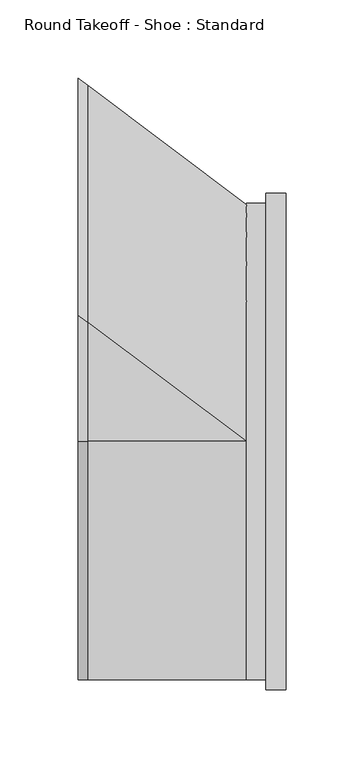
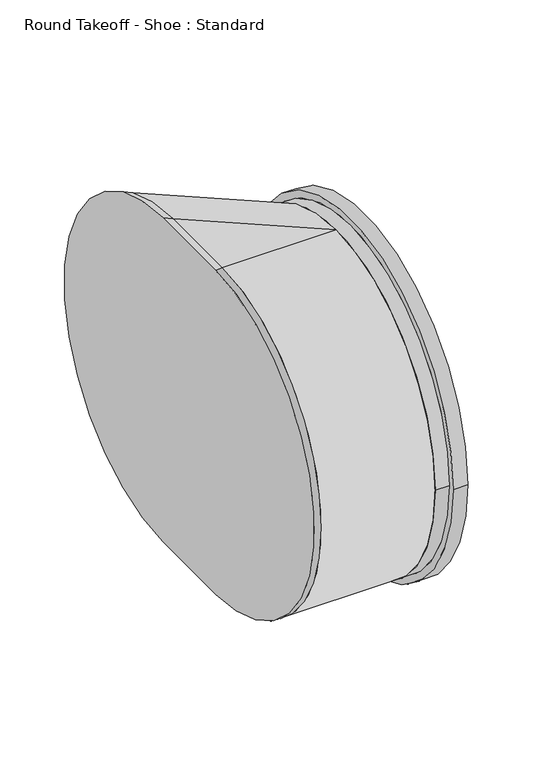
"""IFC4 building model written with IfcOpenShell, lengths in millimetres: duct fitting geometry, Round Takeoff - Shoe : Standard."""

import ifcopenshell
import ifcopenshell.guid

model = None  # the IFC model being written
_history = None  # IfcOwnerHistory: only IFC2X3 demands one
_inside = {}  # id of a spatial element -> (the spatial element, [elements in it])
_under = {}  # id of a project, library or spatial element -> (it, [spatial elements below it])
_declared = {}  # id of a project -> (the project, [libraries it declares])
_typed = {}  # id of a type object -> (the type object, [elements of that type])
_made_of = {}  # id of a material, layer set ... -> (it, [elements and type objects made of it])


def new_model(schema):
    """Start an empty IFC model of exactly this schema.

    Asked for "IFC4X3", IfcOpenShell would pick the latest addendum, in which some entities
    have other attributes; the version numbers below select the first issue.
    IFC2X3 requires an IfcOwnerHistory on every rooted entity: one is made here for all.
    """
    global model, _history
    if schema == "IFC4X3":
        model = ifcopenshell.file(schema_version=(4, 3, 0, 0))
    else:
        model = ifcopenshell.file(schema=schema)
    _inside.clear()
    _under.clear()
    _declared.clear()
    _typed.clear()
    _made_of.clear()
    _history = None
    if model.schema == "IFC2X3":
        org = make("IfcOrganization", Name="unknown")
        user = make(
            "IfcPersonAndOrganization",
            ThePerson=make("IfcPerson", FamilyName="unknown"),
            TheOrganization=org,
        )
        app = make(
            "IfcApplication",
            ApplicationDeveloper=org,
            Version="unknown",
            ApplicationFullName="unknown",
            ApplicationIdentifier="unknown",
        )
        _history = make(
            "IfcOwnerHistory",
            OwningUser=user,
            OwningApplication=app,
            ChangeAction="ADDED",
            CreationDate=0,
        )
    return model


def make(cls, **values):
    """One entity of the class cls with the attributes given. An attribute that is None is left unset."""
    return model.create_entity(
        cls, **{name: value for name, value in values.items() if value is not None}
    )


def rooted(cls, **values):
    """An entity with a GlobalId (a new one), such as an element, a storey or a relation."""
    return make(cls, GlobalId=ifcopenshell.guid.new(), OwnerHistory=_history, **values)


def si_unit(unit_type, name, prefix=None):
    """IfcSIUnit, for example si_unit("LENGTHUNIT", "METRE", prefix="MILLI")."""
    return make("IfcSIUnit", UnitType=unit_type, Prefix=prefix, Name=name)


def assignment(units):
    """IfcUnitAssignment: the units of a project."""
    return None if units is None else make("IfcUnitAssignment", Units=units)


def point(xyz):
    """IfcCartesianPoint."""
    return None if xyz is None else make("IfcCartesianPoint", Coordinates=xyz)


def direction(xyz):
    """IfcDirection."""
    return None if xyz is None else make("IfcDirection", DirectionRatios=xyz)


def frame(location, z_axis=None, x_axis=None):
    """IfcAxis2Placement3D, a coordinate frame: its origin and axes. An axis left out is left unset."""
    return make(
        "IfcAxis2Placement3D",
        Location=point(location),
        Axis=direction(z_axis),
        RefDirection=direction(x_axis),
    )


def origin():
    """The frame at (0, 0, 0) with its axes left unset."""
    return frame((0.0, 0.0, 0.0))


def place(relative_to, where):
    """IfcLocalPlacement: puts the frame where relative to a parent placement (None: the world)."""
    return make(
        "IfcLocalPlacement", PlacementRelTo=relative_to, RelativePlacement=where
    )


def context(
    kind, dimensions, precision=None, world=None, true_north=None, identifier=None
):
    """IfcGeometricRepresentationContext, for example the 3D "Model" context."""
    return make(
        "IfcGeometricRepresentationContext",
        ContextIdentifier=identifier,
        ContextType=kind,
        CoordinateSpaceDimension=dimensions,
        Precision=precision,
        WorldCoordinateSystem=world,
        TrueNorth=true_north,
    )


def project(units=None, contexts=None):
    """IfcProject with its units and contexts."""
    return rooted(
        "IfcProject",
        Name="project",
        RepresentationContexts=contexts,
        UnitsInContext=assignment(units),
    )


def spatial(cls, under=None, at=None, **own):
    """A site, building, storey or space (cls), placed at a placement, below another one or the project."""
    s = rooted(cls, ObjectPlacement=at, **own)
    if under is not None:
        _under.setdefault(under.id(), (under, []))[1].append(s)
    return s


def circle_curve(where, radius):
    """IfcCircle in the frame where."""
    return make("IfcCircle", Position=where, Radius=radius)


def trimmed(basis, trim1, trim2, sense, master):
    """IfcTrimmedCurve: the piece of a basis curve between two trims."""
    return make(
        "IfcTrimmedCurve",
        BasisCurve=basis,
        Trim1=trim1,
        Trim2=trim2,
        SenseAgreement=sense,
        MasterRepresentation=master,
    )


def shape(context_of_items, identifier, shape_type, items):
    """IfcShapeRepresentation: the items that make up one representation, for example the "Body"."""
    return make(
        "IfcShapeRepresentation",
        ContextOfItems=context_of_items,
        RepresentationIdentifier=identifier,
        RepresentationType=shape_type,
        Items=items,
    )


def source(mapping_origin, context_of_items, identifier, shape_type, items):
    """IfcRepresentationMap: a shape defined once, which mapped items show again and again."""
    return make(
        "IfcRepresentationMap",
        MappingOrigin=mapping_origin,
        MappedRepresentation=shape(context_of_items, identifier, shape_type, items),
    )


def transform(
    local_origin,
    x_axis=None,
    y_axis=None,
    z_axis=None,
    scale=None,
    scale2=None,
    scale3=None,
    uniform=True,
):
    """IfcCartesianTransformationOperator3D, or its non-uniform kind. x_axis, y_axis, z_axis: its Axis1, 2, 3."""
    if uniform:
        return make(
            "IfcCartesianTransformationOperator3D",
            Axis1=direction(x_axis),
            Axis2=direction(y_axis),
            LocalOrigin=point(local_origin),
            Scale=scale,
            Axis3=direction(z_axis),
        )
    return make(
        "IfcCartesianTransformationOperator3DnonUniform",
        Axis1=direction(x_axis),
        Axis2=direction(y_axis),
        LocalOrigin=point(local_origin),
        Scale=scale,
        Axis3=direction(z_axis),
        Scale2=scale2,
        Scale3=scale3,
    )


def mapped(mapping_source, mapping_target):
    """IfcMappedItem: shows the shape of a source again, moved by a transform."""
    return make(
        "IfcMappedItem", MappingSource=mapping_source, MappingTarget=mapping_target
    )


def made_of(thing, what):
    """Note that an element or type object is made of a material, layer set ...; save() writes the relation."""
    if what is not None:
        _made_of.setdefault(what.id(), (what, []))[1].append(thing)
    return thing


def element(
    cls,
    number,
    at=None,
    inside=None,
    cuts=None,
    type_object=None,
    material=None,
    context=None,
    identifier="Body",
    shape_type=None,
    held_by="IfcProductDefinitionShape",
    body=None,
    shapes=None,
    **own,
):
    """One element of the class cls, such as IfcWall. Its Tag is "e" and its number.

    at: its placement. inside: the storey or other place that contains it. cuts: it is an
    opening in that element (IfcRelVoidsElement). A single representation is given by context,
    identifier, shape_type and body (its items); several are given by shapes. held_by: the class
    of the entity that holds the representations. save() writes the other relations.
    """
    e = rooted(cls, Tag="e%d" % number, ObjectPlacement=at, **own)
    if body is not None:
        shapes = [shape(context, identifier, shape_type, body)]
    if shapes is not None:
        e.Representation = make(held_by, Representations=shapes)
    if inside is not None:
        _inside.setdefault(inside.id(), (inside, []))[1].append(e)
    if cuts is not None:
        rooted(
            "IfcRelVoidsElement", RelatingBuildingElement=cuts, RelatedOpeningElement=e
        )
    if type_object is not None:
        _typed.setdefault(type_object.id(), (type_object, []))[1].append(e)
    return made_of(e, material)


def aggregate(whole, parts):
    """IfcRelAggregates: a whole, such as a stair, and the parts it consists of."""
    return rooted("IfcRelAggregates", RelatingObject=whole, RelatedObjects=parts)


def save(model, path):
    """Write the relations noted so far, then the file.

    IfcRelAggregates (storeys below a building ...), IfcRelContainedInSpatialStructure (elements
    in a storey), IfcRelDefinesByType, IfcRelAssociatesMaterial and IfcRelDeclares: one each for
    every whole, place, type object, material and project.
    """
    for whole, parts in _under.values():
        aggregate(whole, parts)
    for where, things in _inside.values():
        rooted(
            "IfcRelContainedInSpatialStructure",
            RelatedElements=things,
            RelatingStructure=where,
        )
    for kind, things in _typed.values():
        rooted("IfcRelDefinesByType", RelatedObjects=things, RelatingType=kind)
    for what, things in _made_of.values():
        rooted("IfcRelAssociatesMaterial", RelatedObjects=things, RelatingMaterial=what)
    for by, libraries in _declared.values():
        rooted("IfcRelDeclares", RelatingContext=by, RelatedDefinitions=libraries)
    model.write(path)


def plane_surface(at):
    """IfcPlane: the flat surface through the origin of the frame at, square to its z axis."""
    return make("IfcPlane", Position=at)


def cylinder_surface(at, radius):
    """IfcCylindricalSurface: all points at the distance radius from the z axis of the frame at."""
    return make("IfcCylindricalSurface", Position=at, Radius=radius)


def extruded_surface(curve, direction_of_extrusion, depth):
    """IfcSurfaceOfLinearExtrusion: the curve pushed along a direction by depth."""
    return make(
        "IfcSurfaceOfLinearExtrusion",
        SweptCurve=make("IfcArbitraryOpenProfileDef", ProfileType="CURVE", Curve=curve),
        ExtrudedDirection=direction(direction_of_extrusion),
        Depth=depth,
    )


def advanced_brep(points, edges, surfaces, faces):
    """IfcAdvancedBrep: a solid bounded by faces that lie on surfaces and meet in shared edges.

    An edge is (start, end): straight between two places in points (the first is 0);
    or (start, end, curve); or (start, end, curve, False) where it runs against its curve.
    A face is (place in surfaces, loops), or (place, loops, False) where it looks against
    its surface's normal. A loop lists edges by number (the first is 1), with a minus sign
    where the edge is run from its end to its start. The first loop is the outer one.
    """
    corners = [point(p) for p in points]
    vertices = [make("IfcVertexPoint", VertexGeometry=c) for c in corners]
    made = []
    for start, end, *more in edges:
        made.append(
            make(
                "IfcEdgeCurve",
                EdgeStart=vertices[start],
                EdgeEnd=vertices[end],
                EdgeGeometry=more[0] if more else make("IfcPolyline", Points=[corners[start], corners[end]]),
                SameSense=more[1] if len(more) > 1 else True,
            )
        )
    hull = []
    for where, loops, *sense in faces:
        bounds = []
        for j, loop in enumerate(loops):
            ring = [make("IfcOrientedEdge", EdgeElement=made[abs(k) - 1], Orientation=k > 0) for k in loop]
            bounds.append(
                make(
                    "IfcFaceOuterBound" if j == 0 else "IfcFaceBound",
                    Bound=make("IfcEdgeLoop", EdgeList=ring),
                    Orientation=True,
                )
            )
        hull.append(make("IfcAdvancedFace", Bounds=bounds, FaceSurface=surfaces[where], SameSense=sense[0] if sense else True))
    return make("IfcAdvancedBrep", Outer=make("IfcClosedShell", CfsFaces=hull))


def round_takeoff_shoe_standard_f5a08d47(model_context):
    return source(origin(), model_context, "Body", "AdvancedBrep", [
        advanced_brep(
        [(127.0, 158.75, 0.0), (127.0, -158.75, 0.0), (101.6, 152.4, 0.0), (101.6, -152.4, 0.0), (114.0743747, 152.4, 0.0), (114.0743747, -152.4, 0.0), (114.0743747, 158.75, 0.0), (114.0743747, -158.75, 0.0)],
        [
            (0, 1, circle_curve(frame((127.0, 0.0, 0.0), z_axis=(1.0, 0.0, 0.0), x_axis=(0.0, -1.0, 0.0)), 158.75)),
            (1, 0, circle_curve(frame((127.0, 0.0, 0.0), z_axis=(1.0, 0.0, 0.0), x_axis=(0.0, -1.0, 0.0)), 158.75)),
            (2, 3, circle_curve(frame((101.6, 0.0, 0.0), z_axis=(-1.0, 0.0, 0.0), x_axis=(0.0, -1.0, 0.0)), 152.4)),
            (3, 2, circle_curve(frame((101.6, 0.0, 0.0), z_axis=(-1.0, 0.0, 0.0), x_axis=(0.0, -1.0, 0.0)), 152.4)),
            (2, 4),
            (4, 5, circle_curve(frame((114.0743747, 0.0, 0.0), z_axis=(-1.0, 0.0, 0.0), x_axis=(0.0, -1.0, 0.0)), 152.4)),
            (5, 3),
            (5, 4, circle_curve(frame((114.0743747, 0.0, 0.0), z_axis=(-1.0, 0.0, 0.0), x_axis=(0.0, -1.0, 0.0)), 152.4)),
            (6, 7, circle_curve(frame((114.0743747, 0.0, 0.0), z_axis=(-1.0, 0.0, 0.0), x_axis=(0.0, -1.0, 0.0)), 158.75)),
            (7, 6, circle_curve(frame((114.0743747, 0.0, 0.0), z_axis=(-1.0, 0.0, 0.0), x_axis=(0.0, -1.0, 0.0)), 158.75)),
            (1, 7),
            (6, 0),
        ],
        [
            plane_surface(frame((127.0, -152.4, 0.0), z_axis=(1.0, 0.0, 0.0), x_axis=(0.0, 0.0, 1.0))),
            plane_surface(frame((101.6, -152.4, 0.0), z_axis=(-1.0, 0.0, 0.0), x_axis=(0.0, 0.0, -1.0))),
            cylinder_surface(frame((101.6, 0.0, 0.0), z_axis=(1.0, 0.0, 0.0), x_axis=(0.0, -1.0, 0.0)), 152.4),
            plane_surface(frame((114.0743747, -158.75, 0.0), z_axis=(-1.0, 0.0, 0.0), x_axis=(0.0, 0.0, -1.0))),
            cylinder_surface(frame((114.0743747, 0.0, 0.0), z_axis=(1.0, 0.0, 0.0), x_axis=(0.0, -1.0, 0.0)), 158.75),
        ],
        [
            (0, [[1, 2]]),
            (1, [[3, 4]]),
            (2, [[5, 6, 7, -3]]),
            (2, [[-7, 8, -5, -4]]),
            (3, [[9, 10], [-8, -6]]),
            (4, [[11, -9, 12, -2]]),
            (4, [[-12, -10, -11, -1]]),
        ],
    ),
        advanced_brep(
        [(-6.096, 0.0, -152.4), (-6.096, 0.0, 152.4), (-6.096, 80.772, 152.4), (-6.096, 80.772, -152.4), (0.0, 0.0, -152.4), (0.0, 76.2, -152.4), (0.0, 76.2, 152.4), (0.0, 0.0, 152.4)],
        [
            (0, 1, circle_curve(frame((-6.096, 0.0, 0.0), z_axis=(-1.0, 0.0, 0.0), x_axis=(0.0, -1.0, 0.0)), 152.4)),
            (1, 2),
            (2, 3, circle_curve(frame((-6.096, 80.772, 0.0), z_axis=(-1.0, 0.0, 0.0), x_axis=(0.0, -1.0, 0.0)), 152.4)),
            (3, 0),
            (4, 5),
            (5, 6, circle_curve(frame((0.0, 76.2, 0.0), z_axis=(1.0, 0.0, 0.0), x_axis=(0.0, -1.0, 0.0)), 152.4)),
            (6, 7),
            (7, 4, circle_curve(frame((0.0, 0.0, 0.0), z_axis=(1.0, 0.0, 0.0), x_axis=(0.0, -1.0, 0.0)), 152.4)),
            (4, 0),
            (3, 5),
            (2, 6),
            (1, 7),
        ],
        [
            plane_surface(frame((-6.096, 40.386, 0.0), z_axis=(-1.0, 0.0, 0.0), x_axis=(0.0, -1.0, 0.0))),
            plane_surface(frame((0.0, 38.1, 0.0), z_axis=(1.0, 0.0, 0.0), x_axis=(0.0, -1.0, 0.0))),
            plane_surface(frame((0.0, 38.1, -152.4), z_axis=(0.0, 0.0, -1.0), x_axis=(0.0, 1.0, 0.0))),
            extruded_surface(trimmed(circle_curve(frame((-6.096, 80.772, 0.0), z_axis=(1.0, 0.0, 0.0), x_axis=(0.0, -1.0, 0.0)), 152.4), [point((-6.096, 80.772, -152.4))], [point((-6.096, 80.772, 152.4))], True, "CARTESIAN"), (6.096, -4.572000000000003, 0.0), 7.620000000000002),
            plane_surface(frame((0.0, 38.1, 152.4), z_axis=(0.0, 0.0, 1.0), x_axis=(0.0, -1.0, 0.0))),
            cylinder_surface(frame((0.0, 0.0, 0.0), z_axis=(-1.0, 0.0, 0.0), x_axis=(0.0, -1.0, 0.0)), 152.4),
        ],
        [
            (0, [[1, 2, 3, 4]]),
            (1, [[5, 6, 7, 8]]),
            (2, [[9, -4, 10, -5]]),
            (3, [[-10, -3, 11, -6]]),
            (4, [[-11, -2, 12, -7]]),
            (5, [[-12, -1, -9, -8]]),
        ],
    ),
        advanced_brep(
        [(101.6, 0.0, -152.4), (101.6, 0.0, 152.4), (0.0, 0.0, -152.4), (0.0, 0.0, 152.4), (0.0, 76.2, 152.4), (0.0, 76.2, -152.4)],
        [
            (0, 1, circle_curve(frame((101.6, 0.0, 0.0), z_axis=(1.0, 0.0, 0.0), x_axis=(0.0, -1.0, 0.0)), 152.4)),
            (1, 0, circle_curve(frame((101.6, 0.0, 0.0), z_axis=(1.0, 0.0, 0.0), x_axis=(0.0, -1.0, 0.0)), 152.4)),
            (2, 3, circle_curve(frame((0.0, 0.0, 0.0), z_axis=(-1.0, 0.0, 0.0), x_axis=(0.0, -1.0, 0.0)), 152.4)),
            (3, 4),
            (4, 5, circle_curve(frame((0.0, 76.2, 0.0), z_axis=(-1.0, 0.0, 0.0), x_axis=(0.0, -1.0, 0.0)), 152.4)),
            (5, 2),
            (2, 0),
            (1, 3),
            (1, 4),
            (0, 5),
        ],
        [
            plane_surface(frame((101.6, 0.0, 0.0), z_axis=(1.0, 0.0, 0.0), x_axis=(0.0, -1.0, 0.0))),
            plane_surface(frame((0.0, 38.1, 0.0), z_axis=(-1.0, 0.0, 0.0), x_axis=(0.0, -1.0, 0.0))),
            cylinder_surface(frame((0.0, 0.0, 0.0), z_axis=(1.0, 0.0, 0.0), x_axis=(0.0, -1.0, 0.0)), 152.4),
            plane_surface(frame((0.0, 38.1, 152.4), z_axis=(0.0, 0.0, 1.0), x_axis=(0.0, 1.0, 0.0))),
            extruded_surface(trimmed(circle_curve(frame((101.6, 0.0, 0.0), z_axis=(-1.0, 0.0, 0.0), x_axis=(0.0, -1.0, 0.0)), 152.4), [point((101.6, 0.0, 152.4))], [point((101.6, 0.0, -152.4))], True, "CARTESIAN"), (-101.6, 76.2, 0.0), 127.0),
            plane_surface(frame((0.0, 38.1, -152.4), z_axis=(0.0, 0.0, -1.0), x_axis=(0.0, -1.0, 0.0))),
        ],
        [
            (0, [[1, 2]]),
            (1, [[3, 4, 5, 6]]),
            (2, [[7, -2, 8, -3]]),
            (3, [[-8, 9, -4]]),
            (4, [[-9, -1, 10, -5]]),
            (5, [[-10, -7, -6]]),
        ],
    ),
    ])


if __name__ == "__main__":
    model = new_model("IFC4")
    model_context = context("Model", 3, world=origin())
    ifc_project = project(units=[si_unit("LENGTHUNIT", "METRE", prefix="MILLI")], contexts=[model_context])
    site = spatial("IfcSite", under=ifc_project)
    building = spatial("IfcBuilding", under=site)
    placement = place(None, origin())
    round_takeoff_shoe_standard_shape = round_takeoff_shoe_standard_f5a08d47(model_context)
    element("IfcDuctFitting", 1, ObjectType="Round Takeoff - Shoe : Standard", at=placement, inside=building, context=model_context, shape_type="MappedRepresentation", body=[
        mapped(round_takeoff_shoe_standard_shape, transform((0.0, 0.0, 0.0), x_axis=(1.0, 0.0, 0.0), y_axis=(0.0, 1.0, 0.0), z_axis=(0.0, 0.0, 1.0))),
    ])
    save(model, "model.ifc")
